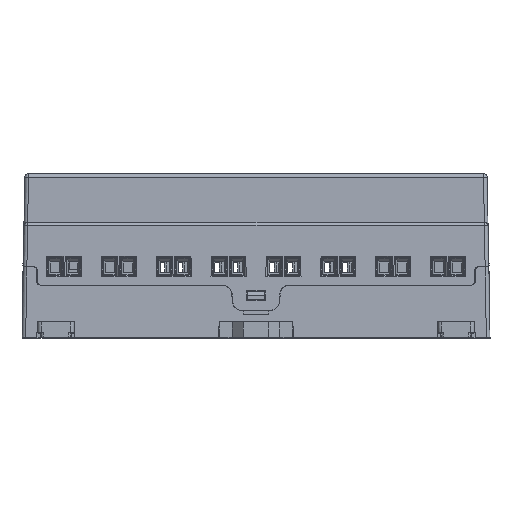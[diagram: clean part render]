
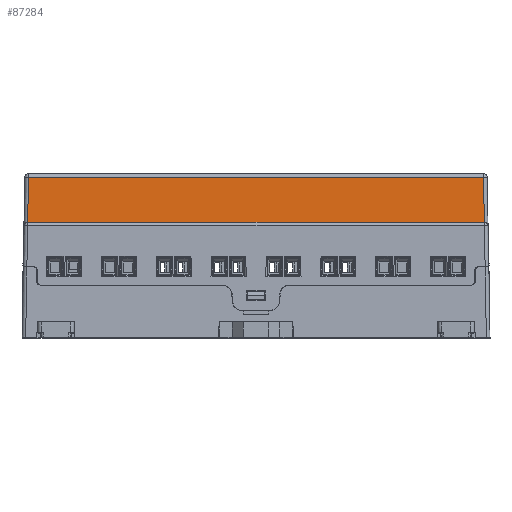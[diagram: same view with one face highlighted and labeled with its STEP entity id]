
A CAD part, top view. The second image highlights one B-rep face of the part: STEP entity #87284.
In plain terms, the highlighted planar face has unit normal (0, 0.018, 1).
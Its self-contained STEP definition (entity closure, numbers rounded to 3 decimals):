
#257 = VERTEX_POINT ( 'NONE', #156842 ) ;
#8765 = CARTESIAN_POINT ( 'NONE',  ( -102.9, 43.372, 34.285 ) ) ;
#12357 = PLANE ( 'NONE',  #36563 ) ;
#15293 = VERTEX_POINT ( 'NONE', #169044 ) ;
#16018 = DIRECTION ( 'NONE',  ( 0., 0.017, 1. ) ) ;
#21578 = EDGE_LOOP ( 'NONE', ( #63658, #50139, #145950, #163263 ) ) ;
#36563 = AXIS2_PLACEMENT_3D ( 'NONE', #115178, #16018, #131862 ) ;
#40356 = LINE ( 'NONE', #41078, #79234 ) ;
#41078 = CARTESIAN_POINT ( 'NONE',  ( 21.785, 31.055, 34.5 ) ) ;
#43983 = CARTESIAN_POINT ( 'NONE',  ( -102.9, 43.372, 34.285 ) ) ;
#50139 = ORIENTED_EDGE ( 'NONE', *, *, #92981, .T. ) ;
#57049 = LINE ( 'NONE', #138222, #184113 ) ;
#57696 = FACE_OUTER_BOUND ( 'NONE', #21578, .T. ) ;
#63658 = ORIENTED_EDGE ( 'NONE', *, *, #208623, .T. ) ;
#79234 = VECTOR ( 'NONE', #173647, 1000. ) ;
#79656 = EDGE_CURVE ( 'NONE', #187107, #102872, #104078, .T. ) ;
#87284 = ADVANCED_FACE ( 'NONE', ( #57696 ), #12357, .T. ) ;
#92981 = EDGE_CURVE ( 'NONE', #257, #15293, #40356, .T. ) ;
#95993 = LINE ( 'NONE', #116349, #140003 ) ;
#102872 = VERTEX_POINT ( 'NONE', #203399 ) ;
#104078 = LINE ( 'NONE', #8765, #142916 ) ;
#107924 = DIRECTION ( 'NONE',  ( -0.017, -1., 0.017 ) ) ;
#115178 = CARTESIAN_POINT ( 'NONE',  ( -104.415, 31.055, 34.5 ) ) ;
#116349 = CARTESIAN_POINT ( 'NONE',  ( -104.415, 31.055, 34.5 ) ) ;
#131862 = DIRECTION ( 'NONE',  ( 0., -1., 0.017 ) ) ;
#132436 = EDGE_CURVE ( 'NONE', #187107, #15293, #57049, .T. ) ;
#138222 = CARTESIAN_POINT ( 'NONE',  ( -104.415, 43.372, 34.285 ) ) ;
#140003 = VECTOR ( 'NONE', #181606, 1000. ) ;
#142916 = VECTOR ( 'NONE', #107924, 1000. ) ;
#145950 = ORIENTED_EDGE ( 'NONE', *, *, #132436, .F. ) ;
#154981 = DIRECTION ( 'NONE',  ( 1., 0., 0. ) ) ;
#156842 = CARTESIAN_POINT ( 'NONE',  ( 21.785, 31.055, 34.5 ) ) ;
#163263 = ORIENTED_EDGE ( 'NONE', *, *, #79656, .T. ) ;
#169044 = CARTESIAN_POINT ( 'NONE',  ( 21.57, 43.372, 34.285 ) ) ;
#173647 = DIRECTION ( 'NONE',  ( -0.017, 1., -0.017 ) ) ;
#181606 = DIRECTION ( 'NONE',  ( 1., 0., 0. ) ) ;
#184113 = VECTOR ( 'NONE', #154981, 1000. ) ;
#187107 = VERTEX_POINT ( 'NONE', #43983 ) ;
#203399 = CARTESIAN_POINT ( 'NONE',  ( -103.115, 31.055, 34.5 ) ) ;
#208623 = EDGE_CURVE ( 'NONE', #102872, #257, #95993, .T. ) ;
